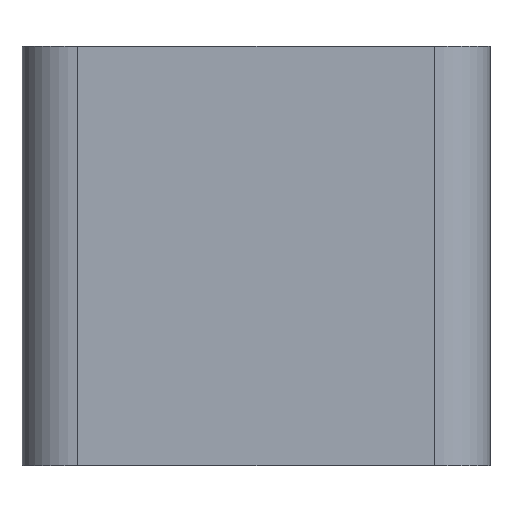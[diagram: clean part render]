
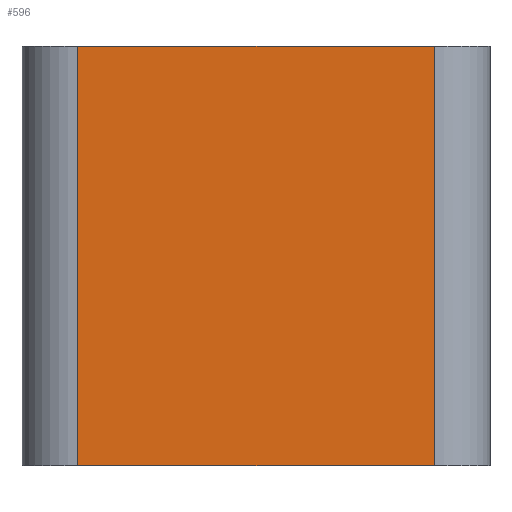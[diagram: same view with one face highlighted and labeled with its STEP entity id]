
A CAD part, left-side view. The second image highlights one B-rep face of the part: STEP entity #596.
In plain terms, the highlighted planar face has unit normal (-1, 0, 0).
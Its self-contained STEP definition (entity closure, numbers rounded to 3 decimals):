
#46=PLANE('',#644);
#63=LINE('',#1247,#110);
#70=LINE('',#1269,#117);
#90=LINE('',#1676,#137);
#91=LINE('',#1677,#138);
#110=VECTOR('',#684,1000.);
#117=VECTOR('',#703,1000.);
#137=VECTOR('',#749,1000.);
#138=VECTOR('',#750,1000.);
#273=ORIENTED_EDGE('',*,*,#366,.T.);
#274=ORIENTED_EDGE('',*,*,#398,.T.);
#275=ORIENTED_EDGE('',*,*,#354,.F.);
#276=ORIENTED_EDGE('',*,*,#399,.T.);
#354=EDGE_CURVE('',#438,#439,#63,.T.);
#366=EDGE_CURVE('',#448,#447,#70,.T.);
#398=EDGE_CURVE('',#447,#439,#90,.F.);
#399=EDGE_CURVE('',#438,#448,#91,.T.);
#438=VERTEX_POINT('',#1246);
#439=VERTEX_POINT('',#1248);
#447=VERTEX_POINT('',#1268);
#448=VERTEX_POINT('',#1270);
#514=EDGE_LOOP('',(#273,#274,#275,#276));
#553=FACE_BOUND('',#514,.T.);
#596=ADVANCED_FACE('',(#553),#46,.F.);
#644=AXIS2_PLACEMENT_3D('',#1675,#747,#748);
#684=DIRECTION('',(0.,1.,0.));
#703=DIRECTION('',(0.,1.,0.));
#747=DIRECTION('',(1.,0.,0.));
#748=DIRECTION('',(0.,1.,0.));
#749=DIRECTION('',(0.,0.,1.));
#750=DIRECTION('',(0.,0.,1.));
#1246=CARTESIAN_POINT('',(-7.,-13.75,0.));
#1247=CARTESIAN_POINT('',(-7.,-15.75,0.));
#1248=CARTESIAN_POINT('',(-7.,-1.,0.));
#1268=CARTESIAN_POINT('',(-7.,-1.,15.));
#1269=CARTESIAN_POINT('',(-7.,-15.75,15.));
#1270=CARTESIAN_POINT('',(-7.,-13.75,15.));
#1675=CARTESIAN_POINT('',(-7.,-15.75,0.));
#1676=CARTESIAN_POINT('',(-7.,-1.,0.));
#1677=CARTESIAN_POINT('',(-7.,-13.75,0.));
